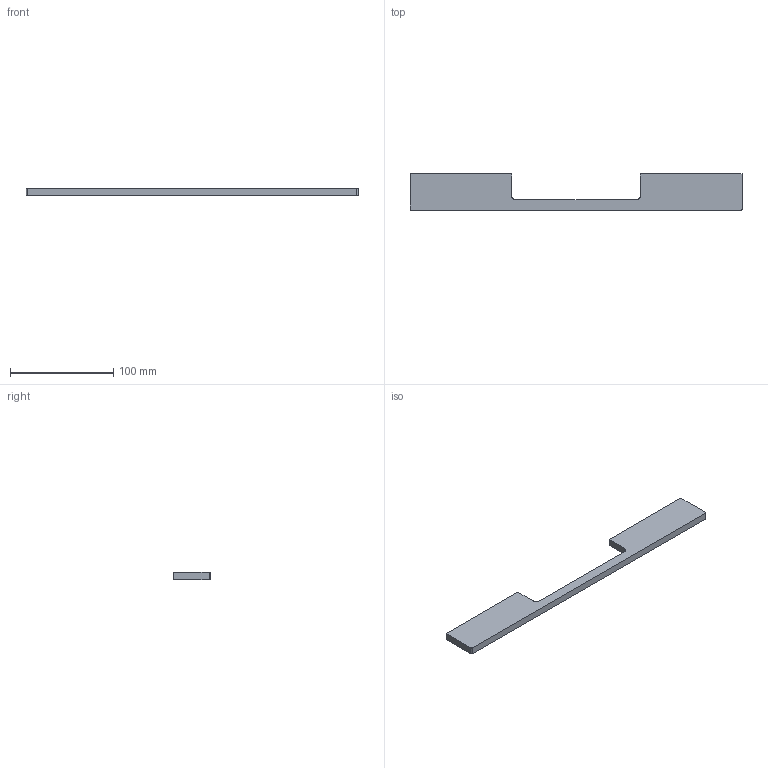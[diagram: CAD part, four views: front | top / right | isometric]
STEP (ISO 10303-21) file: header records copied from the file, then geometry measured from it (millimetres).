
FILE_DESCRIPTION( ( '' ), '1' );
FILE_NAME( 'C:/Documents and Settings/Nikhil/Desktop/Nik/Done/115015.stp', '2013-10-24T06:17:23', ( '' ), ( '' ), ' ', ' ', ' ' );
FILE_SCHEMA( ( 'automotive_design' ) );
Length unit declared in the file: millimetre
Products named in the file (1): 1
Bounding box: 322 x 35 x 7 mm (x, y, z)
Volume: 56859 mm3; surface area: 21821.9 mm2
Topology: 1 solids, 1 shells, 20 faces, 48 edges, 32 vertices
Faces by surface type: plane 12, cylinder 8
Entity records: 1172 total; most frequent: DIRECTION 106, STYLED_ITEM 101, PRESENTATION_STYLE_ASSIGNMENT 101, CARTESIAN_POINT 101, COLOUR_RGB 101, ORIENTED_EDGE 96, EDGE_CURVE 48, CURVE_STYLE 48
